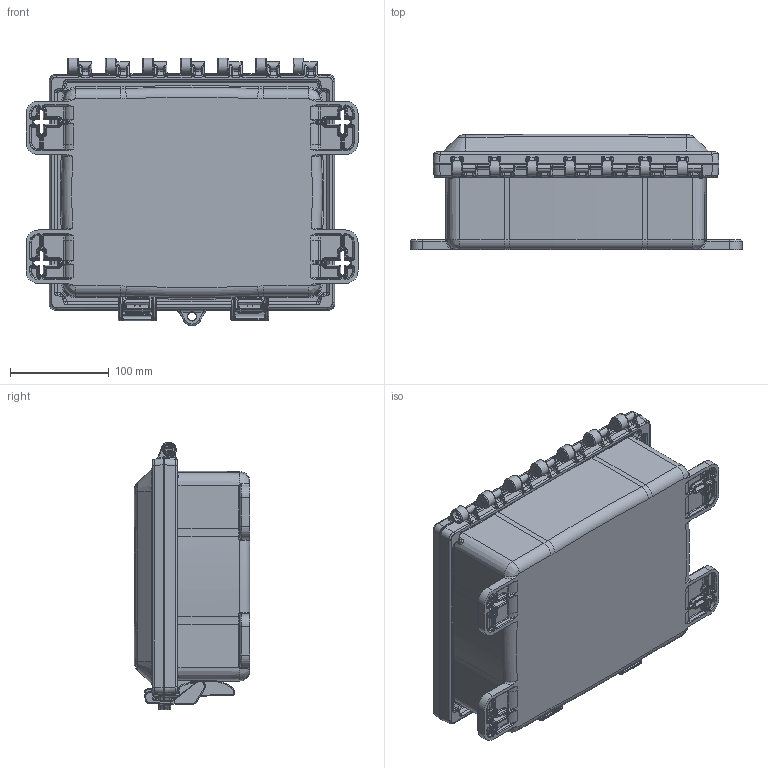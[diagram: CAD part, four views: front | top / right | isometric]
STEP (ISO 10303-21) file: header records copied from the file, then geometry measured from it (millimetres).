
FILE_DESCRIPTION((''),'2;1');
FILE_NAME('SCE-10083PC_ASM','2024-11-07T15:48:53',('dougp'),('SAGINAW CONTROL & ENGINEERING'),'CREO PARAMETRIC BY PTC INC, 2021284','CREO PARAMETRIC BY PTC INC, 2021284','');
FILE_SCHEMA(('AUTOMOTIVE_DESIGN { 1 0 10303 214 1 1 1 1 }'));
Length unit declared in the file: inch
Products named in the file (10): 8X10_BOX_24LAST_VERSION; WPPCC1084CVR; RMGAS_WPPC664CVR; SCE-10083PC-COVER_ASM; KERBKONUS_302000710800; LATCH_BOTTOM; LATCH_TOP; RMAHLATCH-001_ASM; RMAHLATCH-001_1_ASM; SCE-10083PC_ASM
Assembly tree (18 placements, depth 3):
  SCE-10083PC_ASM
    8X10_BOX_24LAST_VERSION
    SCE-10083PC-COVER_ASM
      WPPCC1084CVR
      RMGAS_WPPC664CVR
    KERBKONUS_302000710800  x8
    RMAHLATCH-001_ASM
      LATCH_BOTTOM
      LATCH_TOP
    RMAHLATCH-001_1_ASM
      LATCH_BOTTOM
      LATCH_TOP
Bounding box: 336.55 x 116.92 x 271.18 mm (x, y, z)
Volume: 1135446 mm3; surface area: 605162.8 mm2
Topology: 15 solids, 15 shells, 3847 faces, 9305 edges, 5489 vertices
Faces by surface type: cylinder 1148, bspline 944, plane 762, torus 580, cone 385, sphere 28
Entity records: 175404 total; most frequent: CARTESIAN_POINT 76660, ORIENTED_EDGE 16452, DIRECTION 13928, PRESENTATION_STYLE_ASSIGNMENT 8232, STYLED_ITEM 8232, CURVE_STYLE 8226, EDGE_CURVE 8226, AXIS2_PLACEMENT_3D 5590
